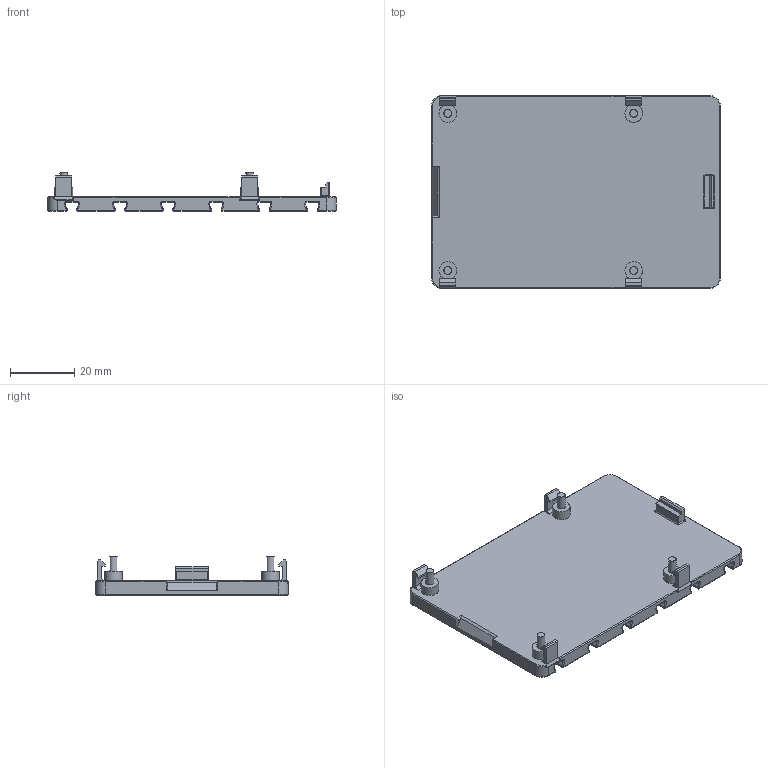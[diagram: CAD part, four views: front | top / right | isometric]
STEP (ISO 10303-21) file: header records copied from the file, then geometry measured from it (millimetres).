
FILE_DESCRIPTION(/* description */ (''),/* implementation_level */ '2;1');
FILE_NAME(/* name */ 'ft_RaspberryPi-Housing_flat.stp',/* time_stamp */ '2024-03-19T13:05:15+01:00',/* author */ (''),/* organization */ (''),/* preprocessor_version */ 'ST-DEVELOPER v19.4',/* originating_system */ 'SIEMENS PLM Software NX2306.8101',/* authorisation */ '');
FILE_SCHEMA (('AUTOMOTIVE_DESIGN { 1 0 10303 214 3 1 1 1 }'));
Length unit declared in the file: millimetre
Products named in the file (1): ft_RaspberryPi-Housing_flat
Bounding box: 90 x 60 x 12 mm (x, y, z)
Volume: 21257 mm3; surface area: 14930.7 mm2
Topology: 1 solids, 1 shells, 355 faces, 860 edges, 464 vertices
Faces by surface type: cylinder 139, plane 102, torus 60, sphere 48, cone 4, bspline 2
Full cylindrical faces by diameter (mm): 5.5 x4
Entity records: 9888 total; most frequent: DIRECTION 1896, CARTESIAN_POINT 1716, ORIENTED_EDGE 1600, EDGE_CURVE 800, AXIS2_PLACEMENT_3D 752, VERTEX_POINT 460, LINE 392, VECTOR 392
